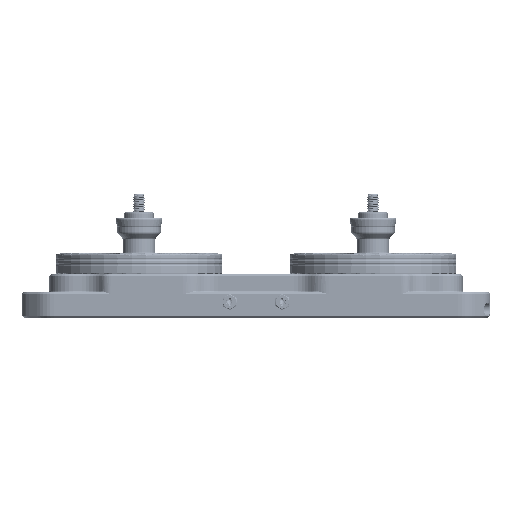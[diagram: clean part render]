
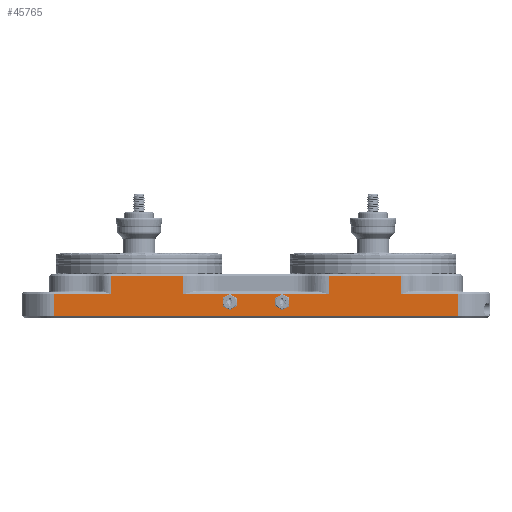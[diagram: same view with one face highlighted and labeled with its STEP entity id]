
A CAD part, front view. The second image highlights one B-rep face of the part: STEP entity #45765.
In plain terms, the highlighted planar face has unit normal (0, -1, 0).
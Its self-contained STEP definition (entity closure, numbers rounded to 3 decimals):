
#24870=LINE('',#201455,#30844);
#24871=LINE('',#201457,#30845);
#24872=LINE('',#201459,#30846);
#24873=LINE('',#201466,#30847);
#24874=LINE('',#201478,#30848);
#24875=LINE('',#201480,#30849);
#25002=LINE('',#202056,#30976);
#25004=LINE('',#202064,#30978);
#25013=LINE('',#202086,#30987);
#25014=LINE('',#202090,#30988);
#25015=LINE('',#202092,#30989);
#25016=LINE('',#202093,#30990);
#30844=VECTOR('',#110482,1.);
#30845=VECTOR('',#110485,1.);
#30846=VECTOR('',#110488,1.);
#30847=VECTOR('',#110491,1.);
#30848=VECTOR('',#110494,1.);
#30849=VECTOR('',#110497,1.);
#30976=VECTOR('',#110946,1.);
#30978=VECTOR('',#110954,1.);
#30987=VECTOR('',#110979,1.);
#30988=VECTOR('',#110984,1.);
#30989=VECTOR('',#110985,1.);
#30990=VECTOR('',#110986,1.);
#45765=ADVANCED_FACE('',(#51971,#51972,#51973),#49596,.F.);
#49596=PLANE('',#101628);
#51971=FACE_BOUND('',#55687,.T.);
#51972=FACE_BOUND('',#55688,.T.);
#51973=FACE_BOUND('',#55689,.T.);
#55687=EDGE_LOOP('',(#66430));
#55688=EDGE_LOOP('',(#66431));
#55689=EDGE_LOOP('',(#66432,#66433,#66434,#66435,#66436,#66437,#66438,#66439,
#66440,#66441,#66442,#66443));
#66430=ORIENTED_EDGE('',*,*,#90979,.T.);
#66431=ORIENTED_EDGE('',*,*,#90805,.T.);
#66432=ORIENTED_EDGE('',*,*,#90806,.T.);
#66433=ORIENTED_EDGE('',*,*,#90807,.T.);
#66434=ORIENTED_EDGE('',*,*,#90808,.T.);
#66435=ORIENTED_EDGE('',*,*,#90814,.T.);
#66436=ORIENTED_EDGE('',*,*,#91035,.T.);
#66437=ORIENTED_EDGE('',*,*,#91036,.T.);
#66438=ORIENTED_EDGE('',*,*,#91033,.T.);
#66439=ORIENTED_EDGE('',*,*,#90810,.T.);
#66440=ORIENTED_EDGE('',*,*,#91022,.T.);
#66441=ORIENTED_EDGE('',*,*,#91037,.T.);
#66442=ORIENTED_EDGE('',*,*,#91018,.T.);
#66443=ORIENTED_EDGE('',*,*,#90813,.T.);
#82558=VERTEX_POINT('',#196491);
#82559=VERTEX_POINT('',#196495);
#82579=VERTEX_POINT('',#196542);
#82580=VERTEX_POINT('',#196546);
#82653=VERTEX_POINT('',#201453);
#82654=VERTEX_POINT('',#201465);
#82655=VERTEX_POINT('',#201467);
#82656=VERTEX_POINT('',#201477);
#82657=VERTEX_POINT('',#201481);
#82829=VERTEX_POINT('',#201976);
#82851=VERTEX_POINT('',#202057);
#82853=VERTEX_POINT('',#202063);
#82859=VERTEX_POINT('',#202087);
#82860=VERTEX_POINT('',#202091);
#90805=EDGE_CURVE('',#82653,#82653,#98554,.T.);
#90806=EDGE_CURVE('',#82579,#82558,#24870,.T.);
#90807=EDGE_CURVE('',#82558,#82559,#24871,.T.);
#90808=EDGE_CURVE('',#82559,#82580,#24872,.T.);
#90810=EDGE_CURVE('',#82655,#82654,#24873,.T.);
#90813=EDGE_CURVE('',#82656,#82579,#24874,.T.);
#90814=EDGE_CURVE('',#82580,#82657,#24875,.T.);
#90979=EDGE_CURVE('',#82829,#82829,#98609,.T.);
#91018=EDGE_CURVE('',#82851,#82656,#25002,.T.);
#91022=EDGE_CURVE('',#82654,#82853,#25004,.T.);
#91033=EDGE_CURVE('',#82859,#82655,#25013,.T.);
#91035=EDGE_CURVE('',#82657,#82860,#25014,.T.);
#91036=EDGE_CURVE('',#82860,#82859,#25015,.T.);
#91037=EDGE_CURVE('',#82853,#82851,#25016,.T.);
#98554=CIRCLE('',#101447,5.3);
#98609=CIRCLE('',#101582,5.3);
#101447=AXIS2_PLACEMENT_3D('',#201452,#110478,#110479);
#101582=AXIS2_PLACEMENT_3D('',#201975,#110854,#110855);
#101628=AXIS2_PLACEMENT_3D('',#202094,#110987,#110988);
#110478=DIRECTION('',(0.,1.,0.));
#110479=DIRECTION('',(0.,0.,-1.));
#110482=DIRECTION('',(0.,0.,-1.));
#110485=DIRECTION('',(1.,0.,0.));
#110488=DIRECTION('',(0.,0.,1.));
#110491=DIRECTION('',(-1.,0.,0.));
#110494=DIRECTION('',(-1.,0.,0.));
#110497=DIRECTION('',(-1.,0.,0.));
#110854=DIRECTION('',(0.,1.,0.));
#110855=DIRECTION('',(0.,0.,-1.));
#110946=DIRECTION('',(0.,0.,-1.));
#110954=DIRECTION('',(0.,0.,1.));
#110979=DIRECTION('',(0.,0.,-1.));
#110984=DIRECTION('',(0.,0.,1.));
#110985=DIRECTION('',(-1.,0.,0.));
#110986=DIRECTION('',(-1.,0.,0.));
#110987=DIRECTION('',(0.,1.,0.));
#110988=DIRECTION('',(-1.,0.,0.));
#196491=CARTESIAN_POINT('',(-245.716,-284.,-51.5));
#196495=CARTESIAN_POINT('',(99.716,-284.,-51.5));
#196542=CARTESIAN_POINT('',(-245.716,-284.,-32.5));
#196546=CARTESIAN_POINT('',(99.716,-284.,-32.5));
#201452=CARTESIAN_POINT('',(-50.5,-284.,-39.553));
#201453=CARTESIAN_POINT('',(-50.5,-284.,-44.853));
#201455=CARTESIAN_POINT('',(-245.716,-284.,-43.));
#201457=CARTESIAN_POINT('',(127.,-284.,-51.5));
#201459=CARTESIAN_POINT('',(99.716,-284.,-43.));
#201465=CARTESIAN_POINT('',(-135.284,-284.,-32.5));
#201466=CARTESIAN_POINT('',(127.,-284.,-32.5));
#201467=CARTESIAN_POINT('',(-10.716,-284.,-32.5));
#201477=CARTESIAN_POINT('',(-197.017,-284.,-32.5));
#201478=CARTESIAN_POINT('',(127.,-284.,-32.5));
#201480=CARTESIAN_POINT('',(127.,-284.,-32.5));
#201481=CARTESIAN_POINT('',(51.017,-284.,-32.5));
#201975=CARTESIAN_POINT('',(-95.5,-284.,-39.553));
#201976=CARTESIAN_POINT('',(-95.5,-284.,-44.853));
#202056=CARTESIAN_POINT('',(-197.017,-284.,-43.));
#202057=CARTESIAN_POINT('',(-197.017,-284.,-17.5));
#202063=CARTESIAN_POINT('',(-135.284,-284.,-17.5));
#202064=CARTESIAN_POINT('',(-135.284,-284.,-43.));
#202086=CARTESIAN_POINT('',(-10.716,-284.,-43.));
#202087=CARTESIAN_POINT('',(-10.716,-284.,-17.5));
#202090=CARTESIAN_POINT('',(51.017,-284.,-43.));
#202091=CARTESIAN_POINT('',(51.017,-284.,-17.5));
#202092=CARTESIAN_POINT('',(127.,-284.,-17.5));
#202093=CARTESIAN_POINT('',(127.,-284.,-17.5));
#202094=CARTESIAN_POINT('',(127.,-284.,-43.));
